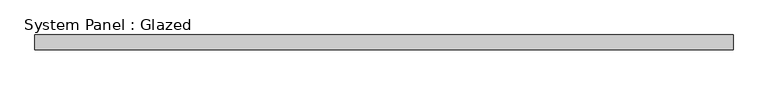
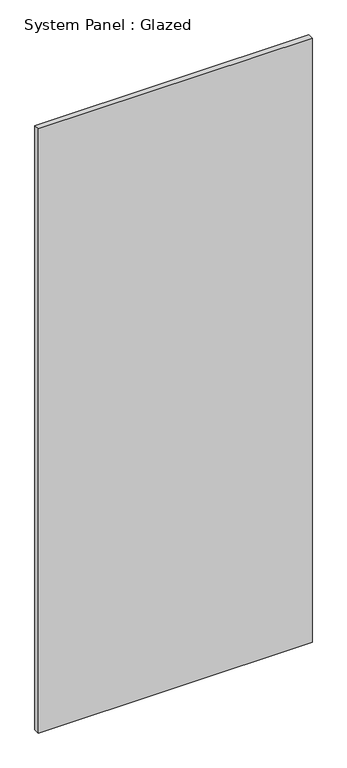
"""IFC4 building model written with IfcOpenShell, lengths in millimetres: plate geometry, System Panel : Glazed."""

from ifc_helpers import new_model, si_unit, origin, origin_with_axes, place, context, project, spatial, polyline, outline, extrude, source, transform, mapped, element, save


def system_panel_glazed_8696f6c7(model_context):
    return source(origin(), model_context, "Body", "SweptSolid", [
        extrude(outline(polyline([(600.0, 19.05), (-600.0, 19.05), (-600.0, 44.45), (600.0, 44.45), (600.0, 19.05)])), origin_with_axes(), (0.0, 0.0, 1.0), 2800.0),
    ])


if __name__ == "__main__":
    model = new_model("IFC4")
    model_context = context("Model", 3, world=origin())
    ifc_project = project(units=[si_unit("LENGTHUNIT", "METRE", prefix="MILLI")], contexts=[model_context])
    site = spatial("IfcSite", under=ifc_project)
    building = spatial("IfcBuilding", under=site)
    placement = place(None, origin())
    system_panel_glazed_shape = system_panel_glazed_8696f6c7(model_context)
    element("IfcPlate", 1, ObjectType="System Panel : Glazed", at=placement, inside=building, context=model_context, shape_type="MappedRepresentation", body=[
        mapped(system_panel_glazed_shape, transform((0.0, 0.0, 0.0), x_axis=(1.0, 0.0, 0.0), y_axis=(0.0, 1.0, 0.0), z_axis=(0.0, 0.0, 1.0))),
    ])
    save(model, "model.ifc")
